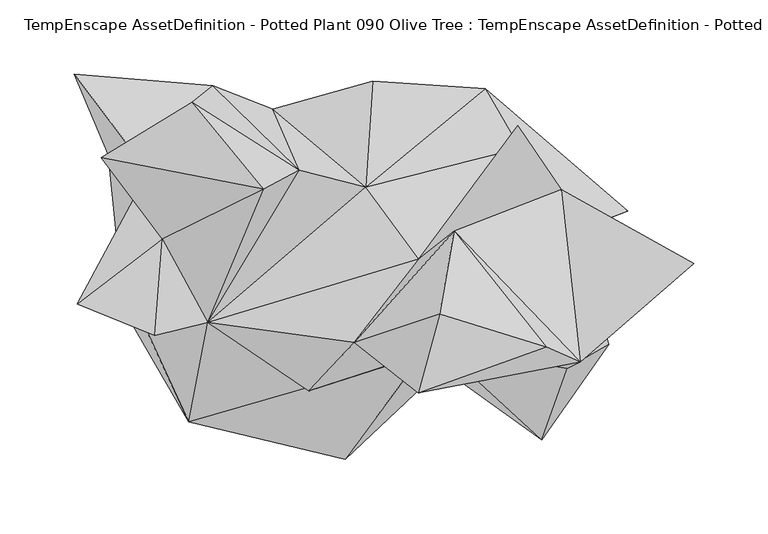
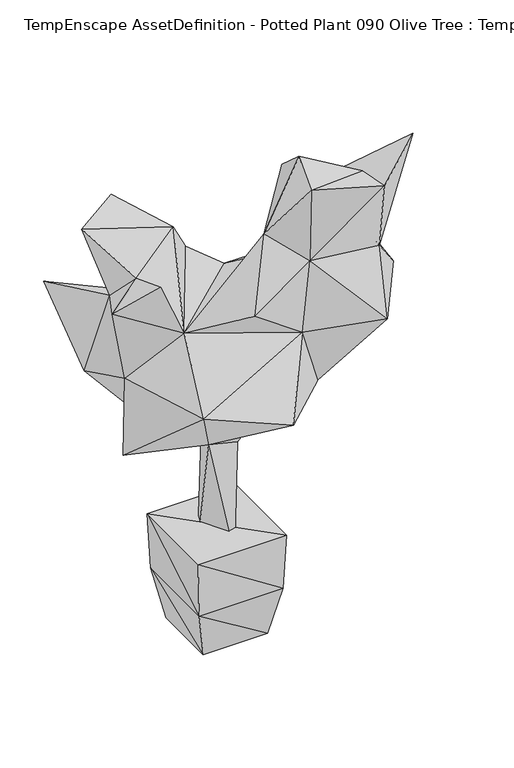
"""IFC4 building model written with IfcOpenShell, lengths in millimetres: geographic element geometry, TempEnscape AssetDefinition - Potted Plant 090 Olive Tree : TempEnscape AssetDefinition - Potted Plant 090 Olive Tree."""

from ifc_helpers import new_model, si_unit, origin, place, context, project, spatial, faceted_brep, source, transform, mapped, element, save


def tempenscape_assetdefinition_potted_plant_090_olive_tree_17f0c885(model_context):
    return source(origin(), model_context, "Body", "Brep", [
        faceted_brep([(-19.7439995, -14.7569999, 268.956989), (-11.4879999, 23.7530004, 103.684999), (12.1839996, -19.1769991, 106.1080024), (-4.619, 26.9489996, 269.5269883), (25.0649992, -4.4109998, 251.4570057), (110.7790023, -9.4140004, 349.3350148), (73.6979991, 29.9040005, 296.5489924), (-92.5550014, 31.6030011, 316.3509965), (-25.8530006, 98.9520028, 356.9670022), (41.3950011, 117.7110001, 383.5949898), (117.2619984, 112.7780005, 392.836988), (213.0170017, 30.5339992, 361.2309992), (36.7840007, 46.5550013, 466.9120014), (140.4960006, 72.6969987, 444.8040128), (156.1360061, 8.6829998, 405.5339992), (93.4560001, -70.4929978, 354.497999), (200.2930045, -59.3760014, 477.3209989), (72.581999, -1.8579999, 498.7829924), (139.1499937, 87.9649967, 542.3589945), (168.3620065, 44.8370017, 543.5680151), (172.3890007, -75.7429972, 518.3939934), (155.2709937, -123.6229986, 450.3279924), (87.9679993, -61.8500002, 518.2930231), (181.238994, -71.3410005, 596.1769819), (257.4779987, -4.983, 602.8280258), (75.2400011, -66.3390011, 425.0389934), (-1.54, -90.8349976, 489.4739985), (28.9670005, -58.0630004, 574.4559765), (72.0719993, -92.2869965, 640.6930089), (-82.1999982, -111.6259992, 385.7409954), (22.9339991, -136.838004, 355.4779887), (-69.5680007, -44.7730012, 461.0820115), (86.6060033, -39.1299985, 651.5200138), (96.4789987, 17.035, 602.3799777), (158.3330035, -61.0679984, 619.3079948), (-7.8339996, 57.8900017, 499.612987), (-136.5070045, 68.4539974, 363.3019924), (-66.234, 114.7119999, 426.0660112), (-31.7489989, 45.1860018, 542.9880023), (-80.077, 103.8039997, 569.3690181), (-159.3129933, 122.4780008, 464.1599953), (-109.3989983, 56.4600006, 466.8669999), (-128.5559982, -11.3479998, 398.804009), (-135.4700029, -19.785, 298.3880043), (-157.3390067, -32.1919993, 510.8109713), (-100.1489982, 11.5430001, 514.5789981), (-105.1009968, -53.3859991, 543.2029963), (-141.030997, 66.324003, 564.504981)], [[[0, 1, 2]], [[1, 0, 3]], [[4, 1, 3]], [[1, 4, 2]], [[0, 2, 4]], [[5, 0, 4]], [[3, 6, 4]], [[4, 6, 5]], [[7, 3, 0]], [[7, 8, 3]], [[8, 6, 3]], [[9, 6, 8]], [[10, 11, 6]], [[9, 10, 6]], [[6, 11, 5]], [[9, 8, 12]], [[9, 12, 10]], [[10, 13, 14]], [[10, 12, 13]], [[10, 14, 11]], [[14, 5, 11]], [[14, 15, 5]], [[14, 16, 15]], [[14, 13, 16]], [[12, 17, 13]], [[18, 13, 17]], [[13, 19, 16]], [[18, 19, 13]], [[16, 20, 21]], [[16, 21, 15]], [[16, 19, 20]], [[20, 22, 21]], [[23, 22, 20]], [[20, 24, 23]], [[20, 19, 24]], [[25, 15, 21]], [[21, 22, 25]], [[26, 25, 22]], [[27, 22, 28]], [[22, 27, 26]], [[28, 22, 23]], [[25, 29, 30]], [[25, 31, 29]], [[15, 25, 30]], [[25, 26, 31]], [[31, 26, 27]], [[32, 27, 28]], [[33, 27, 32]], [[33, 17, 27]], [[27, 17, 31]], [[33, 32, 34]], [[32, 28, 34]], [[34, 28, 23]], [[34, 23, 33]], [[33, 19, 17]], [[19, 33, 23]], [[12, 31, 17]], [[19, 18, 17]], [[19, 23, 24]], [[35, 12, 8]], [[35, 31, 12]], [[36, 8, 7]], [[36, 37, 8]], [[37, 35, 8]], [[38, 31, 35]], [[37, 39, 35]], [[35, 39, 38]], [[40, 41, 37]], [[39, 37, 41]], [[40, 37, 36]], [[36, 7, 42]], [[36, 42, 41]], [[40, 36, 41]], [[42, 7, 43]], [[7, 0, 43]], [[43, 29, 42]], [[42, 31, 44]], [[44, 41, 42]], [[31, 42, 29]], [[0, 29, 43]], [[0, 30, 29]], [[30, 0, 15]], [[0, 5, 15]], [[45, 46, 31]], [[45, 31, 38]], [[46, 44, 31]], [[45, 41, 44]], [[46, 45, 44]], [[47, 45, 38]], [[47, 41, 45]], [[39, 47, 38]], [[47, 39, 41]]]),
        faceted_brep([(-42.7699983, -42.7699983, 0.0), (-42.7699983, 42.7699983, 0.0), (42.7699983, -42.7699983, 0.0), (55.8659993, -55.8659993, 66.6820034), (55.8659993, 55.8659993, 66.6820034), (58.8119999, -58.8119999, 141.6310072), (42.7699983, 42.7699983, 0.0), (-55.8659993, 55.8659993, 66.6820034), (-55.8659993, -55.8659993, 66.6820034), (-58.8119999, -58.8119999, 141.6310072), (-58.8119999, 58.8119999, 141.6310072), (58.8119999, 58.8119999, 141.6310072)], [[[0, 1, 2]], [[3, 4, 5]], [[2, 6, 3]], [[1, 0, 7]], [[6, 1, 4]], [[0, 2, 8]], [[9, 5, 10]], [[7, 8, 10]], [[4, 7, 11]], [[8, 3, 9]], [[2, 1, 6]], [[5, 4, 11]], [[3, 6, 4]], [[7, 0, 8]], [[4, 1, 7]], [[8, 2, 3]], [[10, 5, 11]], [[10, 8, 9]], [[11, 7, 10]], [[9, 3, 5]]]),
    ])


if __name__ == "__main__":
    model = new_model("IFC4")
    model_context = context("Model", 3, world=origin())
    ifc_project = project(units=[si_unit("LENGTHUNIT", "METRE", prefix="MILLI")], contexts=[model_context])
    site = spatial("IfcSite", under=ifc_project)
    building = spatial("IfcBuilding", under=site)
    placement = place(None, origin())
    tempenscape_assetdefinition_potted_plant_090_olive_tree_shape = tempenscape_assetdefinition_potted_plant_090_olive_tree_17f0c885(model_context)
    element("IfcGeographicElement", 1, ObjectType="TempEnscape AssetDefinition - Potted Plant 090 Olive Tree : TempEnscape AssetDefinition - Potted Plant 090 Olive Tree", at=placement, inside=building, context=model_context, shape_type="MappedRepresentation", body=[
        mapped(tempenscape_assetdefinition_potted_plant_090_olive_tree_shape, transform((0.0, 0.0, 0.0), x_axis=(1.0, 0.0, 0.0), y_axis=(0.0, 1.0, 0.0), z_axis=(0.0, 0.0, 1.0))),
    ])
    save(model, "model.ifc")
